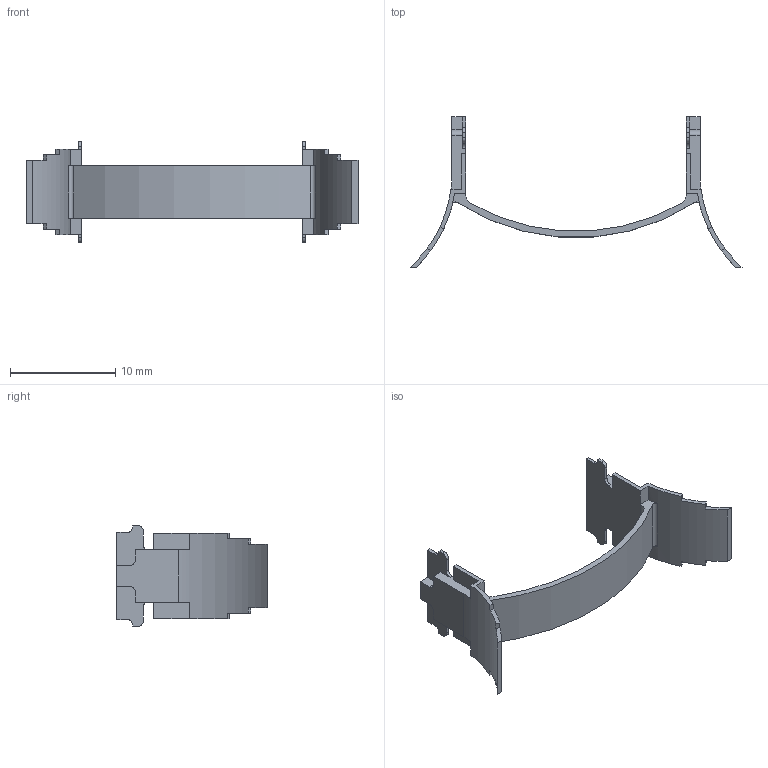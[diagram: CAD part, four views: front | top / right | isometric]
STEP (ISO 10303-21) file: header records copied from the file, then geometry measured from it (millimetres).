
FILE_DESCRIPTION((''),'2;1');
FILE_NAME('E:\端から修正\NHA-08.stp','2013-11-07T16:52:33',('AMS8'),(''),'Autodesk Inventor 2008','Autodesk Inventor 2008','');
FILE_SCHEMA(('AUTOMOTIVE_DESIGN { 1 0 10303 214 1 1 1 1 }'));
Length unit declared in the file: millimetre
Products named in the file (2): DEFAULT
Assembly tree (1 placements, depth 2):
  DEFAULT
    DEFAULT
Bounding box: 31.57 x 14.3 x 9.6 mm (x, y, z)
Volume: 229.2 mm3; surface area: 821.4 mm2
Topology: 1 solids, 1 shells, 104 faces, 306 edges, 204 vertices
Faces by surface type: plane 78, cylinder 26
Entity records: 3518 total; most frequent: CARTESIAN_POINT 617, ORIENTED_EDGE 612, DIRECTION 596, EDGE_CURVE 306, VECTOR 230, LINE 230, VERTEX_POINT 204, AXIS2_PLACEMENT_3D 183
